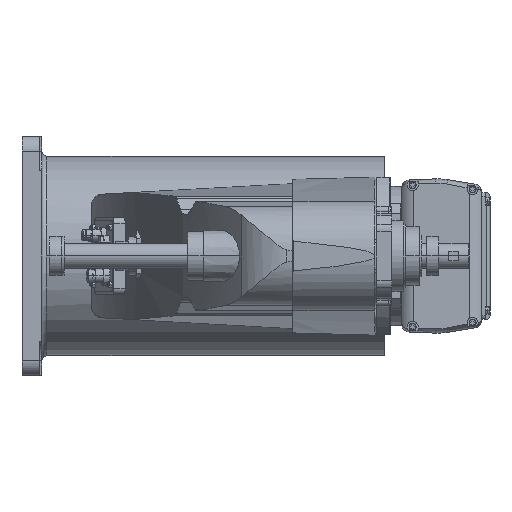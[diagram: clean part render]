
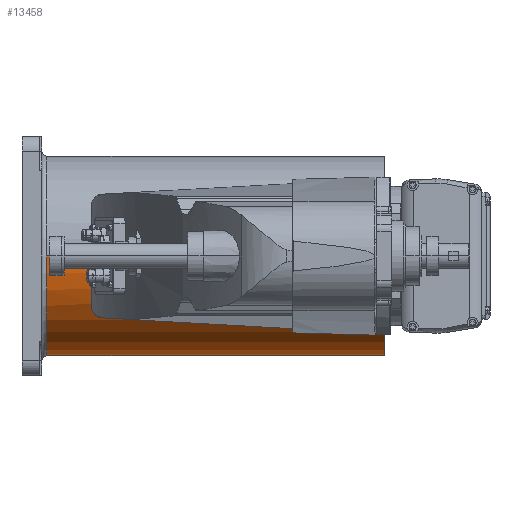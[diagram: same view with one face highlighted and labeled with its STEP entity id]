
A CAD part, left-side view. The second image highlights one B-rep face of the part: STEP entity #13458.
In plain terms, the highlighted cylindrical face has radius 100 mm (diameter 200 mm), a partial arc.
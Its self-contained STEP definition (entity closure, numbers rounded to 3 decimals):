
#9292 = EDGE_CURVE( '', #13464, #18950, #27099, .T. );
#9504 = EDGE_CURVE( '', #9848, #22904, #27337, .T. );
#9704 = EDGE_CURVE( '', #12394, #10744, #27552, .T. );
#9848 = VERTEX_POINT( '', #27706 );
#10744 = VERTEX_POINT( '', #28685 );
#10978 = EDGE_CURVE( '', #25202, #11712, #28941, .T. );
#11018 = EDGE_CURVE( '', #12520, #24344, #28983, .T. );
#11712 = VERTEX_POINT( '', #29764 );
#12140 = EDGE_CURVE( '', #13540, #12986, #30251, .T. );
#12394 = VERTEX_POINT( '', #30544 );
#12520 = VERTEX_POINT( '', #30690 );
#12986 = VERTEX_POINT( '', #31244 );
#13084 = EDGE_CURVE( '', #18950, #14844, #31348, .T. );
#13458 = ADVANCED_FACE( '', ( #31766 ), #31767, .T. );
#13464 = VERTEX_POINT( '', #31773 );
#13540 = VERTEX_POINT( '', #31857 );
#14386 = EDGE_CURVE( '', #21864, #23000, #32791, .T. );
#14588 = EDGE_CURVE( '', #23000, #21740, #33016, .T. );
#14844 = VERTEX_POINT( '', #33300 );
#15448 = EDGE_CURVE( '', #14844, #13540, #33964, .T. );
#17408 = EDGE_CURVE( '', #10744, #22904, #36148, .T. );
#17928 = EDGE_CURVE( '', #11712, #12520, #36738, .T. );
#18650 = EDGE_CURVE( '', #9848, #25202, #37565, .T. );
#18950 = VERTEX_POINT( '', #37924 );
#19432 = EDGE_CURVE( '', #24344, #21864, #38454, .T. );
#21740 = VERTEX_POINT( '', #41024 );
#21864 = VERTEX_POINT( '', #41161 );
#22382 = EDGE_CURVE( '', #12986, #12394, #41748, .T. );
#22904 = VERTEX_POINT( '', #42326 );
#23000 = VERTEX_POINT( '', #42433 );
#24344 = VERTEX_POINT( '', #43928 );
#25202 = VERTEX_POINT( '', #44878 );
#26548 = EDGE_CURVE( '', #21740, #13464, #46363, .T. );
#27099 = B_SPLINE_CURVE_WITH_KNOTS( '', 3, ( #47103, #47104, #47105, #47106, #47107, #47108, #47109, #47110, #47111, #47112, #47113, #47114, #47115, #47116, #47117, #47118, #47119, #47120 ), .UNSPECIFIED., .F., .F., ( 4, 2, 2, 2, 2, 2, 2, 2, 4 ), ( 14.722, 15.472, 16.222, 16.971, 17.721, 18.842, 19.962, 21.082, 22.202 ), .UNSPECIFIED. );
#27337 = CIRCLE( '', #47440, 100. );
#27552 = CIRCLE( '', #47769, 100. );
#27706 = CARTESIAN_POINT( '', ( -100., 25., 0. ) );
#28685 = CARTESIAN_POINT( '', ( 100., 64., 0. ) );
#28941 = CIRCLE( '', #49759, 100. );
#28983 = CIRCLE( '', #49808, 100. );
#29764 = CARTESIAN_POINT( '', ( -88., 218.3, -47.497 ) );
#30251 = CIRCLE( '', #51595, 100. );
#30544 = CARTESIAN_POINT( '', ( 89.303, 64., -45. ) );
#30690 = CARTESIAN_POINT( '', ( -88., 311.3, -47.497 ) );
#31244 = CARTESIAN_POINT( '', ( 89.303, 62., -45. ) );
#31348 = CIRCLE( '', #53199, 100. );
#31766 = FACE_OUTER_BOUND( '', #53785, .T. );
#31767 = CYLINDRICAL_SURFACE( '', #53786, 100. );
#31773 = CARTESIAN_POINT( '', ( 66.144, 68., -75. ) );
#31857 = CARTESIAN_POINT( '', ( 75.993, 62., -65. ) );
#32791 = CIRCLE( '', #55190, 100. );
#33016 = CIRCLE( '', #55513, 100. );
#33300 = CARTESIAN_POINT( '', ( 75.993, 64., -65. ) );
#33964 = LINE( '', #56904, #56905 );
#36148 = LINE( '', #60196, #60197 );
#36738 = LINE( '', #61055, #61056 );
#37565 = LINE( '', #62205, #62206 );
#37924 = CARTESIAN_POINT( '', ( 70.42, 64., -71. ) );
#38454 = LINE( '', #63520, #63521 );
#41024 = CARTESIAN_POINT( '', ( 66.144, 363., -75. ) );
#41161 = CARTESIAN_POINT( '', ( -100., 363., 0. ) );
#41748 = LINE( '', #68089, #68090 );
#42326 = CARTESIAN_POINT( '', ( 100., 25., 0. ) );
#42433 = CARTESIAN_POINT( '', ( 0., 363., -100. ) );
#43928 = CARTESIAN_POINT( '', ( -100., 311.3, 0. ) );
#44878 = CARTESIAN_POINT( '', ( -100., 218.3, 0. ) );
#46363 = LINE( '', #74820, #74821 );
#47103 = CARTESIAN_POINT( '', ( 66.144, 68., -75. ) );
#47104 = CARTESIAN_POINT( '', ( 66.144, 67.75, -75. ) );
#47105 = CARTESIAN_POINT( '', ( 66.171, 67.497, -74.976 ) );
#47106 = CARTESIAN_POINT( '', ( 66.277, 67.005, -74.882 ) );
#47107 = CARTESIAN_POINT( '', ( 66.356, 66.766, -74.812 ) );
#47108 = CARTESIAN_POINT( '', ( 66.555, 66.315, -74.636 ) );
#47109 = CARTESIAN_POINT( '', ( 66.674, 66.103, -74.529 ) );
#47110 = CARTESIAN_POINT( '', ( 66.938, 65.716, -74.292 ) );
#47111 = CARTESIAN_POINT( '', ( 67.082, 65.542, -74.162 ) );
#47112 = CARTESIAN_POINT( '', ( 67.446, 65.158, -73.831 ) );
#47113 = CARTESIAN_POINT( '', ( 67.688, 64.954, -73.61 ) );
#47114 = CARTESIAN_POINT( '', ( 68.203, 64.604, -73.134 ) );
#47115 = CARTESIAN_POINT( '', ( 68.475, 64.457, -72.879 ) );
#47116 = CARTESIAN_POINT( '', ( 69.031, 64.224, -72.352 ) );
#47117 = CARTESIAN_POINT( '', ( 69.316, 64.139, -72.08 ) );
#47118 = CARTESIAN_POINT( '', ( 69.877, 64.026, -71.535 ) );
#47119 = CARTESIAN_POINT( '', ( 70.155, 64., -71.263 ) );
#47120 = CARTESIAN_POINT( '', ( 70.42, 64., -71. ) );
#47440 = AXIS2_PLACEMENT_3D( '', #75708, #75709, #75710 );
#47769 = AXIS2_PLACEMENT_3D( '', #75912, #75913, #75914 );
#49759 = AXIS2_PLACEMENT_3D( '', #77335, #77336, #77337 );
#49808 = AXIS2_PLACEMENT_3D( '', #77362, #77363, #77364 );
#51595 = AXIS2_PLACEMENT_3D( '', #78963, #78964, #78965 );
#53199 = AXIS2_PLACEMENT_3D( '', #80366, #80367, #80368 );
#53785 = EDGE_LOOP( '', ( #80873, #80874, #80875, #80876, #80877, #80878, #80879, #80880, #80881, #80882, #80883, #80884, #80885, #80886, #80887, #80888 ) );
#53786 = AXIS2_PLACEMENT_3D( '', #80889, #80890, #80891 );
#55190 = AXIS2_PLACEMENT_3D( '', #82000, #82001, #82002 );
#55513 = AXIS2_PLACEMENT_3D( '', #82268, #82269, #82270 );
#56904 = CARTESIAN_POINT( '', ( 75.993, 63., -65. ) );
#56905 = VECTOR( '', #83306, 1. );
#60196 = CARTESIAN_POINT( '', ( 100., 194., 0. ) );
#60197 = VECTOR( '', #85875, 1. );
#61055 = CARTESIAN_POINT( '', ( -88., 264.8, -47.497 ) );
#61056 = VECTOR( '', #86571, 1. );
#62205 = CARTESIAN_POINT( '', ( -100., 194., 0. ) );
#62206 = VECTOR( '', #87560, 1. );
#63520 = CARTESIAN_POINT( '', ( -100., 194., 0. ) );
#63521 = VECTOR( '', #88716, 1. );
#68089 = CARTESIAN_POINT( '', ( 89.303, 63., -45. ) );
#68090 = VECTOR( '', #92407, 1. );
#74820 = CARTESIAN_POINT( '', ( 66.144, 215.5, -75. ) );
#74821 = VECTOR( '', #97575, 1. );
#75708 = CARTESIAN_POINT( '', ( 0., 25., 0. ) );
#75709 = DIRECTION( '', ( 0., -1., 0. ) );
#75710 = DIRECTION( '', ( 1., 0., 0. ) );
#75912 = CARTESIAN_POINT( '', ( 0., 64., 0. ) );
#75913 = DIRECTION( '', ( 0., -1., 0. ) );
#75914 = DIRECTION( '', ( 1., 0., 0. ) );
#77335 = CARTESIAN_POINT( '', ( 0., 218.3, 0. ) );
#77336 = DIRECTION( '', ( 0., -1., 0. ) );
#77337 = DIRECTION( '', ( 1., 0., 0. ) );
#77362 = CARTESIAN_POINT( '', ( 0., 311.3, 0. ) );
#77363 = DIRECTION( '', ( 0., 1., 0. ) );
#77364 = DIRECTION( '', ( 1., 0., 0. ) );
#78963 = CARTESIAN_POINT( '', ( 0., 62., 0. ) );
#78964 = DIRECTION( '', ( 0., -1., 0. ) );
#78965 = DIRECTION( '', ( 1., 0., 0. ) );
#80366 = CARTESIAN_POINT( '', ( 0., 64., 0. ) );
#80367 = DIRECTION( '', ( 0., -1., 0. ) );
#80368 = DIRECTION( '', ( 1., 0., 0. ) );
#80873 = ORIENTED_EDGE( '', *, *, #17408, .T. );
#80874 = ORIENTED_EDGE( '', *, *, #9504, .F. );
#80875 = ORIENTED_EDGE( '', *, *, #18650, .T. );
#80876 = ORIENTED_EDGE( '', *, *, #10978, .T. );
#80877 = ORIENTED_EDGE( '', *, *, #17928, .T. );
#80878 = ORIENTED_EDGE( '', *, *, #11018, .T. );
#80879 = ORIENTED_EDGE( '', *, *, #19432, .T. );
#80880 = ORIENTED_EDGE( '', *, *, #14386, .T. );
#80881 = ORIENTED_EDGE( '', *, *, #14588, .T. );
#80882 = ORIENTED_EDGE( '', *, *, #26548, .T. );
#80883 = ORIENTED_EDGE( '', *, *, #9292, .T. );
#80884 = ORIENTED_EDGE( '', *, *, #13084, .T. );
#80885 = ORIENTED_EDGE( '', *, *, #15448, .T. );
#80886 = ORIENTED_EDGE( '', *, *, #12140, .T. );
#80887 = ORIENTED_EDGE( '', *, *, #22382, .T. );
#80888 = ORIENTED_EDGE( '', *, *, #9704, .T. );
#80889 = CARTESIAN_POINT( '', ( 0., 194., 0. ) );
#80890 = DIRECTION( '', ( 0., 1., 0. ) );
#80891 = DIRECTION( '', ( 1., 0., 0. ) );
#82000 = CARTESIAN_POINT( '', ( 0., 363., 0. ) );
#82001 = DIRECTION( '', ( 0., -1., 0. ) );
#82002 = DIRECTION( '', ( 1., 0., 0. ) );
#82268 = CARTESIAN_POINT( '', ( 0., 363., 0. ) );
#82269 = DIRECTION( '', ( 0., -1., 0. ) );
#82270 = DIRECTION( '', ( 1., 0., 0. ) );
#83306 = DIRECTION( '', ( 0., -1., 0. ) );
#85875 = DIRECTION( '', ( 0., -1., 0. ) );
#86571 = DIRECTION( '', ( 0., 1., 0. ) );
#87560 = DIRECTION( '', ( 0., 1., 0. ) );
#88716 = DIRECTION( '', ( 0., 1., 0. ) );
#92407 = DIRECTION( '', ( 0., 1., 0. ) );
#97575 = DIRECTION( '', ( 0., -1., 0. ) );
